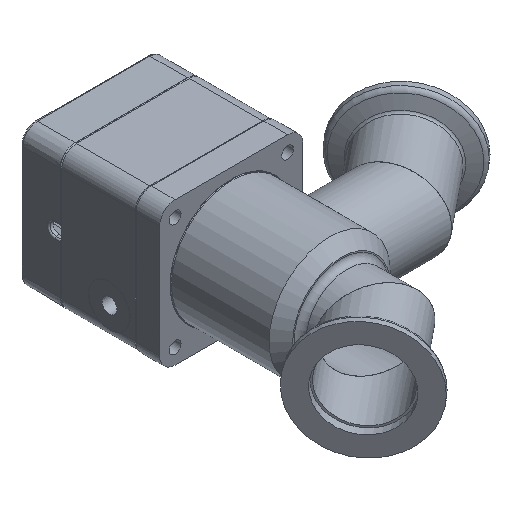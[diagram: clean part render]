
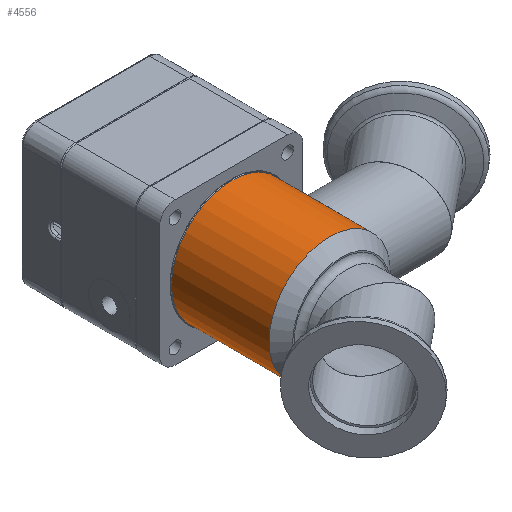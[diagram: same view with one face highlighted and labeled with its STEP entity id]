
A CAD part, isometric view. The second image highlights one B-rep face of the part: STEP entity #4556.
In plain terms, the highlighted cylindrical face has radius 20.45 mm (diameter 40.9 mm), a full revolution.
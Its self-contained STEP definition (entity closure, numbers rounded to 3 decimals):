
#1764=B_SPLINE_CURVE_WITH_KNOTS('',3,(#15096,#15097,#15098,#15099,#15100,
#15101,#15102,#15103,#15104,#15105,#15106,#15107,#15108,#15109,#15110,#15111,
#15112,#15113,#15114,#15115,#15116,#15117),.UNSPECIFIED.,.T.,.F.,(2,2,2,
2,2,2,2,2,2,2,2,2,2),(-0.062,0.,0.125,0.25,0.313,0.375,0.5,
0.625,0.75,0.875,0.938,1.,1.125),.UNSPECIFIED.);
#3715=CYLINDRICAL_SURFACE('',#10327,20.45);
#4094=FACE_BOUND('',#5648,.T.);
#4095=FACE_BOUND('',#5649,.T.);
#4096=FACE_BOUND('',#5650,.T.);
#4556=ADVANCED_FACE('',(#4094,#4095,#4096),#3715,.T.);
#5648=EDGE_LOOP('',(#7450));
#5649=EDGE_LOOP('',(#7451));
#5650=EDGE_LOOP('',(#7452));
#7450=ORIENTED_EDGE('',*,*,#9214,.F.);
#7451=ORIENTED_EDGE('',*,*,#9215,.T.);
#7452=ORIENTED_EDGE('',*,*,#9216,.F.);
#8279=VERTEX_POINT('',#15093);
#8280=VERTEX_POINT('',#15095);
#8281=VERTEX_POINT('',#15118);
#9214=EDGE_CURVE('',#8279,#8279,#9613,.T.);
#9215=EDGE_CURVE('',#8280,#8280,#9614,.T.);
#9216=EDGE_CURVE('',#8281,#8281,#1764,.T.);
#9613=CIRCLE('',#10325,20.45);
#9614=CIRCLE('',#10326,20.45);
#10325=AXIS2_PLACEMENT_3D('',#15092,#12273,#12274);
#10326=AXIS2_PLACEMENT_3D('',#15094,#12275,#12276);
#10327=AXIS2_PLACEMENT_3D('',#15119,#12277,#12278);
#12273=DIRECTION('',(-1.,0.,0.));
#12274=DIRECTION('',(0.,0.,1.));
#12275=DIRECTION('',(-1.,0.,0.));
#12276=DIRECTION('',(0.,0.,1.));
#12277=DIRECTION('',(-1.,0.,0.));
#12278=DIRECTION('',(0.,0.,1.));
#15092=CARTESIAN_POINT('',(21.6,0.,0.));
#15093=CARTESIAN_POINT('',(21.6,0.,20.45));
#15094=CARTESIAN_POINT('',(54.6,0.,0.));
#15095=CARTESIAN_POINT('',(54.6,0.,20.45));
#15096=CARTESIAN_POINT('',(39.799,16.185,-12.5));
#15097=CARTESIAN_POINT('',(34.702,16.185,-12.5));
#15098=CARTESIAN_POINT('',(31.539,17.352,-11.103));
#15099=CARTESIAN_POINT('',(27.037,19.505,-6.628));
#15100=CARTESIAN_POINT('',(25.614,20.442,-3.422));
#15101=CARTESIAN_POINT('',(25.593,20.454,1.637));
#15102=CARTESIAN_POINT('',(25.937,20.239,3.317));
#15103=CARTESIAN_POINT('',(27.206,19.503,6.346));
#15104=CARTESIAN_POINT('',(28.128,18.985,7.703));
#15105=CARTESIAN_POINT('',(31.493,17.371,11.076));
#15106=CARTESIAN_POINT('',(34.651,16.196,12.486));
#15107=CARTESIAN_POINT('',(41.448,16.174,12.514));
#15108=CARTESIAN_POINT('',(44.628,17.338,11.128));
#15109=CARTESIAN_POINT('',(49.165,19.504,6.634));
#15110=CARTESIAN_POINT('',(50.588,20.442,3.437));
#15111=CARTESIAN_POINT('',(50.612,20.458,-3.346));
#15112=CARTESIAN_POINT('',(49.196,19.523,-6.582));
#15113=CARTESIAN_POINT('',(45.81,17.9,-9.967));
#15114=CARTESIAN_POINT('',(44.479,17.337,-10.873));
#15115=CARTESIAN_POINT('',(41.472,16.47,-12.147));
#15116=CARTESIAN_POINT('',(39.799,16.185,-12.5));
#15117=CARTESIAN_POINT('',(34.702,16.185,-12.5));
#15118=CARTESIAN_POINT('',(38.1,16.185,-12.5));
#15119=CARTESIAN_POINT('',(0.,0.,0.));
